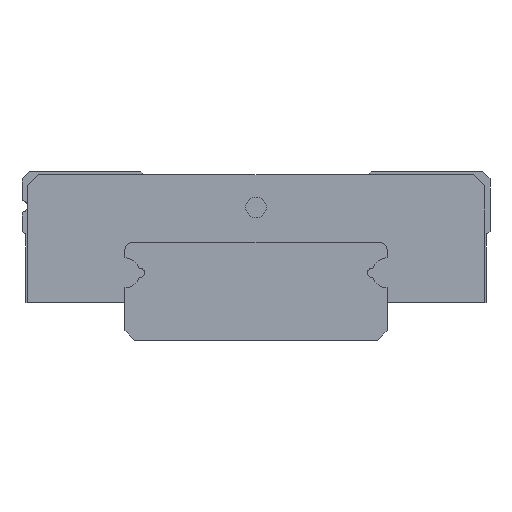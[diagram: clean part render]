
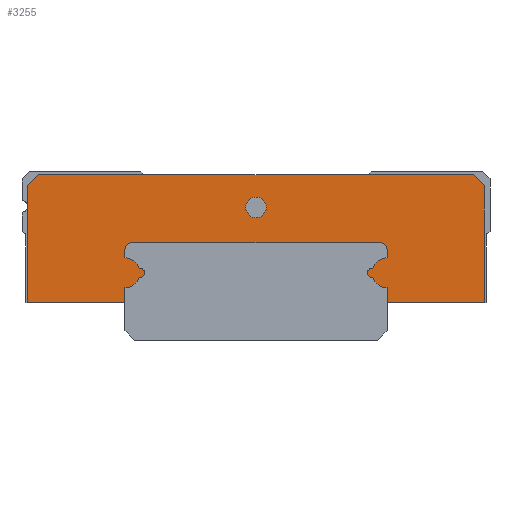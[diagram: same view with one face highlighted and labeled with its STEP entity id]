
A CAD part, left-side view. The second image highlights one B-rep face of the part: STEP entity #3255.
In plain terms, the highlighted planar face has unit normal (-1, 0, 0).
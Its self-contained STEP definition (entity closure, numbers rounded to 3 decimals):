
#1361=CARTESIAN_POINT('',(0.0,0.55,7.1));
#1362=VERTEX_POINT('',#1361);
#1363=CARTESIAN_POINT('',(0.0,0.,7.1));
#1364=DIRECTION('',(1.0,0.0,0.0));
#1365=DIRECTION('',(0.0,-1.0,0.0));
#1366=AXIS2_PLACEMENT_3D('',#1363,#1364,#1365);
#1367=CIRCLE('',#1366,0.55);
#1368=EDGE_CURVE('',#1362,#1362,#1367,.T.);
#2468=CARTESIAN_POINT('',(0.0,-11.6,8.85));
#2469=VERTEX_POINT('',#2468);
#2476=CARTESIAN_POINT('',(0.0,-12.2,8.25));
#2477=VERTEX_POINT('',#2476);
#2478=CARTESIAN_POINT('',(0.0,-12.2,8.25));
#2479=DIRECTION('',(0.0,0.707,0.707));
#2480=VECTOR('',#2479,0.849);
#2481=LINE('',#2478,#2480);
#2482=EDGE_CURVE('',#2477,#2469,#2481,.T.);
#2531=CARTESIAN_POINT('',(0.0,-12.2,2.0));
#2532=VERTEX_POINT('',#2531);
#2533=CARTESIAN_POINT('',(0.0,-12.2,2.0));
#2534=DIRECTION('',(0.0,0.0,1.0));
#2535=VECTOR('',#2534,6.25);
#2536=LINE('',#2533,#2535);
#2537=EDGE_CURVE('',#2532,#2477,#2536,.T.);
#2578=CARTESIAN_POINT('',(0.0,12.2,2.0));
#2579=VERTEX_POINT('',#2578);
#2586=CARTESIAN_POINT('',(0.0,12.2,8.25));
#2587=VERTEX_POINT('',#2586);
#2588=CARTESIAN_POINT('',(0.0,12.2,8.25));
#2589=DIRECTION('',(0.0,0.0,-1.0));
#2590=VECTOR('',#2589,6.25);
#2591=LINE('',#2588,#2590);
#2592=EDGE_CURVE('',#2587,#2579,#2591,.T.);
#2643=CARTESIAN_POINT('',(0.0,11.6,8.85));
#2644=VERTEX_POINT('',#2643);
#2645=CARTESIAN_POINT('',(0.0,11.6,8.85));
#2646=DIRECTION('',(0.0,0.707,-0.707));
#2647=VECTOR('',#2646,0.849);
#2648=LINE('',#2645,#2647);
#2649=EDGE_CURVE('',#2644,#2587,#2648,.T.);
#2702=CARTESIAN_POINT('',(0.0,-11.6,8.85));
#2703=DIRECTION('',(0.0,1.0,0.0));
#2704=VECTOR('',#2703,23.2);
#2705=LINE('',#2702,#2704);
#2706=EDGE_CURVE('',#2469,#2644,#2705,.T.);
#2727=CARTESIAN_POINT('',(0.0,7.,2.0));
#2728=VERTEX_POINT('',#2727);
#2735=CARTESIAN_POINT('',(0.0,12.2,2.0));
#2736=DIRECTION('',(0.0,-1.0,0.0));
#2737=VECTOR('',#2736,5.2);
#2738=LINE('',#2735,#2737);
#2739=EDGE_CURVE('',#2579,#2728,#2738,.T.);
#2762=CARTESIAN_POINT('',(0.0,7.,2.8));
#2763=VERTEX_POINT('',#2762);
#2770=CARTESIAN_POINT('',(0.0,7.,2.0));
#2771=DIRECTION('',(0.0,0.0,1.0));
#2772=VECTOR('',#2771,0.8);
#2773=LINE('',#2770,#2772);
#2774=EDGE_CURVE('',#2728,#2763,#2773,.T.);
#2794=CARTESIAN_POINT('',(0.0,6.239,3.353));
#2795=VERTEX_POINT('',#2794);
#2802=CARTESIAN_POINT('',(0.0,7.,3.6));
#2803=DIRECTION('',(-1.,0.0,0.0));
#2804=DIRECTION('',(0.0,0.951,0.309));
#2805=AXIS2_PLACEMENT_3D('',#2802,#2803,#2804);
#2806=CIRCLE('',#2805,0.8);
#2807=EDGE_CURVE('',#2763,#2795,#2806,.T.);
#2827=CARTESIAN_POINT('',(0.0,6.239,3.847));
#2828=VERTEX_POINT('',#2827);
#2835=CARTESIAN_POINT('',(0.0,6.2,3.6));
#2836=DIRECTION('',(-1.0,0.0,0.0));
#2837=DIRECTION('',(0.0,-0.156,-0.988));
#2838=AXIS2_PLACEMENT_3D('',#2835,#2836,#2837);
#2839=CIRCLE('',#2838,0.25);
#2840=EDGE_CURVE('',#2795,#2828,#2839,.T.);
#2860=CARTESIAN_POINT('',(0.0,7.,4.4));
#2861=VERTEX_POINT('',#2860);
#2868=CARTESIAN_POINT('',(0.0,7.,3.6));
#2869=DIRECTION('',(-1.0,0.0,0.0));
#2870=DIRECTION('',(0.0,0.0,-1.0));
#2871=AXIS2_PLACEMENT_3D('',#2868,#2869,#2870);
#2872=CIRCLE('',#2871,0.8);
#2873=EDGE_CURVE('',#2828,#2861,#2872,.T.);
#2892=CARTESIAN_POINT('',(0.0,7.,4.85));
#2893=VERTEX_POINT('',#2892);
#2900=CARTESIAN_POINT('',(0.0,7.,4.4));
#2901=DIRECTION('',(0.0,0.0,1.0));
#2902=VECTOR('',#2901,0.45);
#2903=LINE('',#2900,#2902);
#2904=EDGE_CURVE('',#2861,#2893,#2903,.T.);
#2924=CARTESIAN_POINT('',(0.0,6.65,5.2));
#2925=VERTEX_POINT('',#2924);
#2932=CARTESIAN_POINT('',(0.0,6.65,4.85));
#2933=DIRECTION('',(1.0,0.0,0.0));
#2934=DIRECTION('',(0.0,1.0,0.0));
#2935=AXIS2_PLACEMENT_3D('',#2932,#2933,#2934);
#2936=CIRCLE('',#2935,0.35);
#2937=EDGE_CURVE('',#2893,#2925,#2936,.T.);
#2956=CARTESIAN_POINT('',(0.0,-6.65,5.2));
#2957=VERTEX_POINT('',#2956);
#2964=CARTESIAN_POINT('',(0.0,6.65,5.2));
#2965=DIRECTION('',(0.0,-1.0,0.0));
#2966=VECTOR('',#2965,13.3);
#2967=LINE('',#2964,#2966);
#2968=EDGE_CURVE('',#2925,#2957,#2967,.T.);
#2988=CARTESIAN_POINT('',(0.0,-7.,4.85));
#2989=VERTEX_POINT('',#2988);
#2996=CARTESIAN_POINT('',(0.0,-6.65,4.85));
#2997=DIRECTION('',(1.0,0.0,0.0));
#2998=DIRECTION('',(0.0,0.0,1.0));
#2999=AXIS2_PLACEMENT_3D('',#2996,#2997,#2998);
#3000=CIRCLE('',#2999,0.35);
#3001=EDGE_CURVE('',#2957,#2989,#3000,.T.);
#3020=CARTESIAN_POINT('',(0.0,-7.,4.4));
#3021=VERTEX_POINT('',#3020);
#3028=CARTESIAN_POINT('',(0.0,-7.,4.85));
#3029=DIRECTION('',(0.0,0.0,-1.0));
#3030=VECTOR('',#3029,0.45);
#3031=LINE('',#3028,#3030);
#3032=EDGE_CURVE('',#2989,#3021,#3031,.T.);
#3052=CARTESIAN_POINT('',(0.0,-6.239,3.847));
#3053=VERTEX_POINT('',#3052);
#3060=CARTESIAN_POINT('',(0.0,-7.,3.6));
#3061=DIRECTION('',(-1.,0.0,0.0));
#3062=DIRECTION('',(0.0,-0.951,-0.309));
#3063=AXIS2_PLACEMENT_3D('',#3060,#3061,#3062);
#3064=CIRCLE('',#3063,0.8);
#3065=EDGE_CURVE('',#3021,#3053,#3064,.T.);
#3085=CARTESIAN_POINT('',(0.0,-6.239,3.353));
#3086=VERTEX_POINT('',#3085);
#3093=CARTESIAN_POINT('',(0.0,-6.2,3.6));
#3094=DIRECTION('',(-1.0,0.0,0.0));
#3095=DIRECTION('',(0.0,0.156,0.988));
#3096=AXIS2_PLACEMENT_3D('',#3093,#3094,#3095);
#3097=CIRCLE('',#3096,0.25);
#3098=EDGE_CURVE('',#3053,#3086,#3097,.T.);
#3118=CARTESIAN_POINT('',(0.0,-7.,2.8));
#3119=VERTEX_POINT('',#3118);
#3126=CARTESIAN_POINT('',(0.0,-7.,3.6));
#3127=DIRECTION('',(-1.0,0.0,0.0));
#3128=DIRECTION('',(0.0,0.0,1.0));
#3129=AXIS2_PLACEMENT_3D('',#3126,#3127,#3128);
#3130=CIRCLE('',#3129,0.8);
#3131=EDGE_CURVE('',#3086,#3119,#3130,.T.);
#3150=CARTESIAN_POINT('',(0.0,-7.,2.0));
#3151=VERTEX_POINT('',#3150);
#3158=CARTESIAN_POINT('',(0.0,-7.,2.8));
#3159=DIRECTION('',(0.0,0.0,-1.0));
#3160=VECTOR('',#3159,0.8);
#3161=LINE('',#3158,#3160);
#3162=EDGE_CURVE('',#3119,#3151,#3161,.T.);
#3184=CARTESIAN_POINT('',(0.0,-7.,2.0));
#3185=DIRECTION('',(0.0,-1.0,0.0));
#3186=VECTOR('',#3185,5.2);
#3187=LINE('',#3184,#3186);
#3188=EDGE_CURVE('',#3151,#2532,#3187,.T.);
#3225=CARTESIAN_POINT('',(0.0,0.,5.793));
#3226=DIRECTION('',(1.0,0.0,0.0));
#3227=DIRECTION('',(0.0,0.0,-1.0));
#3228=AXIS2_PLACEMENT_3D('',#3225,#3226,#3227);
#3229=PLANE('',#3228);
#3230=ORIENTED_EDGE('',*,*,#3188,.T.);
#3231=ORIENTED_EDGE('',*,*,#2537,.T.);
#3232=ORIENTED_EDGE('',*,*,#2482,.T.);
#3233=ORIENTED_EDGE('',*,*,#2706,.T.);
#3234=ORIENTED_EDGE('',*,*,#2649,.T.);
#3235=ORIENTED_EDGE('',*,*,#2592,.T.);
#3236=ORIENTED_EDGE('',*,*,#2739,.T.);
#3237=ORIENTED_EDGE('',*,*,#2774,.T.);
#3238=ORIENTED_EDGE('',*,*,#2807,.T.);
#3239=ORIENTED_EDGE('',*,*,#2840,.T.);
#3240=ORIENTED_EDGE('',*,*,#2873,.T.);
#3241=ORIENTED_EDGE('',*,*,#2904,.T.);
#3242=ORIENTED_EDGE('',*,*,#2937,.T.);
#3243=ORIENTED_EDGE('',*,*,#2968,.T.);
#3244=ORIENTED_EDGE('',*,*,#3001,.T.);
#3245=ORIENTED_EDGE('',*,*,#3032,.T.);
#3246=ORIENTED_EDGE('',*,*,#3065,.T.);
#3247=ORIENTED_EDGE('',*,*,#3098,.T.);
#3248=ORIENTED_EDGE('',*,*,#3131,.T.);
#3249=ORIENTED_EDGE('',*,*,#3162,.T.);
#3250=EDGE_LOOP('',(#3230,#3231,#3232,#3233,#3234,#3235,#3236,#3237,#3238,#3239,#3240,#3241,#3242,#3243,#3244,#3245,#3246,#3247,#3248,#3249));
#3251=FACE_OUTER_BOUND('',#3250,.T.);
#3252=ORIENTED_EDGE('',*,*,#1368,.T.);
#3253=EDGE_LOOP('',(#3252));
#3254=FACE_BOUND('',#3253,.T.);
#3255=ADVANCED_FACE('',(#3251,#3254),#3229,.F.);
